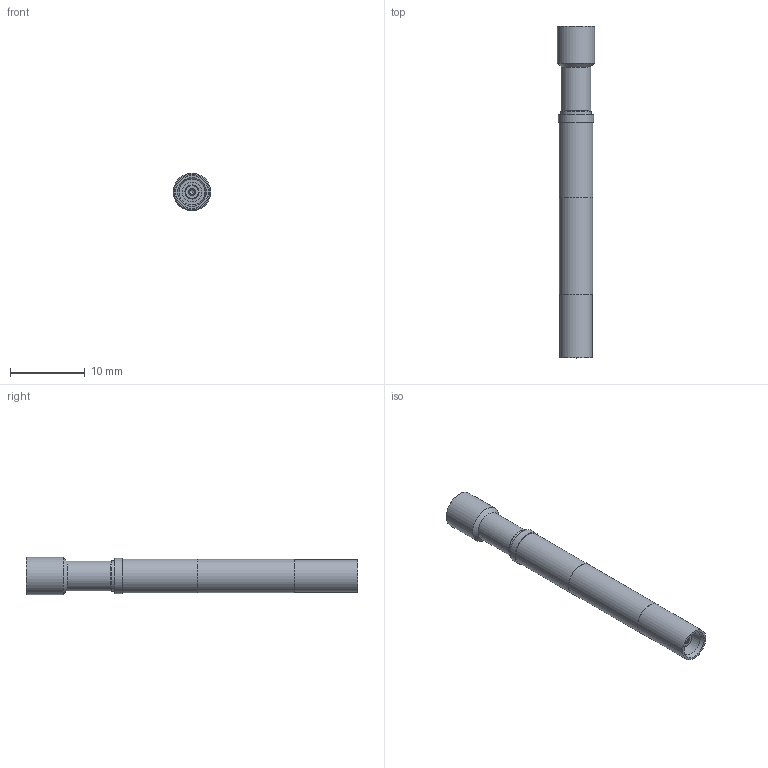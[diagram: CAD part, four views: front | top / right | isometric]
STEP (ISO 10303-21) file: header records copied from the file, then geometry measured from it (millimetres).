
FILE_DESCRIPTION(/* description */ (''),/* implementation_level */ '2;1');
FILE_NAME(/* name */ 'RK-50013SMBM-6G_20230404.stp',/* time_stamp */ '2023-04-04T11:27:10+08:00',/* author */ (''),/* organization */ (''),/* preprocessor_version */ 'ST-DEVELOPER v16.7',/* originating_system */ 'SIEMENS PLM Software NX 12.0',/* authorisation */ '');
FILE_SCHEMA (('AUTOMOTIVE_DESIGN { 1 0 10303 214 3 1 1 1 }'));
Length unit declared in the file: millimetre
Products named in the file (1): 2D OF 3D_dwg
Bounding box: 5 x 44.4 x 5 mm (x, y, z)
Volume: 605.4 mm3; surface area: 806.9 mm2
Topology: 1 solids, 1 shells, 45 faces, 79 edges, 47 vertices
Faces by surface type: cylinder 18, plane 13, cone 11, torus 3
Full cylindrical faces by diameter (mm): 0.51 x1, 0.6 x1, 0.95 x1, 1.5 x2, 1.9 x1, 2.45 x1, 2.65 x1, 3.42 x1, 3.7 x1, 3.8 x1, 3.97 x1, 4.05 x1, 4.4 x1, 4.46 x1, 4.5 x1, 4.7 x1, 5 x1
Entity records: 926 total; most frequent: DIRECTION 180, CARTESIAN_POINT 136, FACE_BOUND 90, AXIS2_PLACEMENT_3D 90, EDGE_LOOP 88, ORIENTED_EDGE 88, VERTEX_POINT 46, ADVANCED_FACE 45
